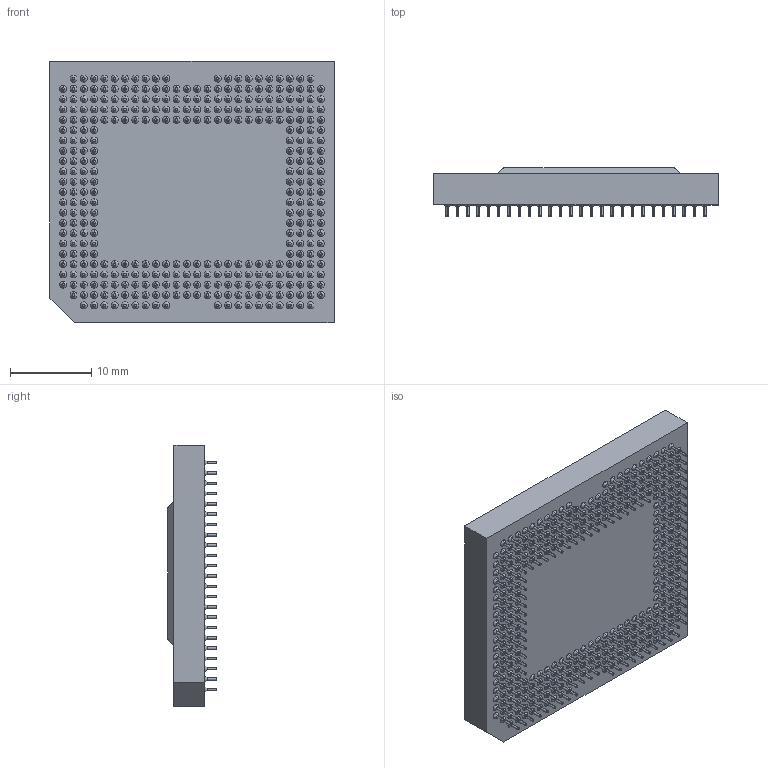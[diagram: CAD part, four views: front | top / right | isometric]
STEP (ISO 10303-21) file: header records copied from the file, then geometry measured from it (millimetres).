
FILE_DESCRIPTION (( 'STEP AP214' ), '1' );
FILE_NAME ('s610-HB-66-UHD-DMD-10-20-2015.STEP', '2015-10-20T12:57:38', ( '' ), ( '' ), 'SwSTEP 2.0', 'SolidWorks 2013', '' );
FILE_SCHEMA (( 'AUTOMOTIVE_DESIGN' ));
Length unit declared in the file: millimetre
Products named in the file (3): s610-HB-66-UHD-Window; s610-HB-66-UHD-Ceramic; s610-HB-66-UHD-DMD-10-20-2015
Assembly tree (2 placements, depth 2):
  s610-HB-66-UHD-DMD-10-20-2015
    s610-HB-66-UHD-Ceramic
    s610-HB-66-UHD-Window
Bounding box: 35 x 5.96 x 32.2 mm (x, y, z)
Volume: 4306.1 mm3; surface area: 4356.4 mm2
Topology: 2 solids, 2 shells, 1818 faces, 3657 edges, 2202 vertices
Faces by surface type: cylinder 714, cone 700, plane 404
Entity records: 67029 total; most frequent: DIRECTION 9431, CARTESIAN_POINT 7682, ORIENTED_EDGE 7314, AXIS2_PLACEMENT_3D 3951, EDGE_CURVE 3657, VERTEX_POINT 2202, EDGE_LOOP 2177, CIRCLE 2128
